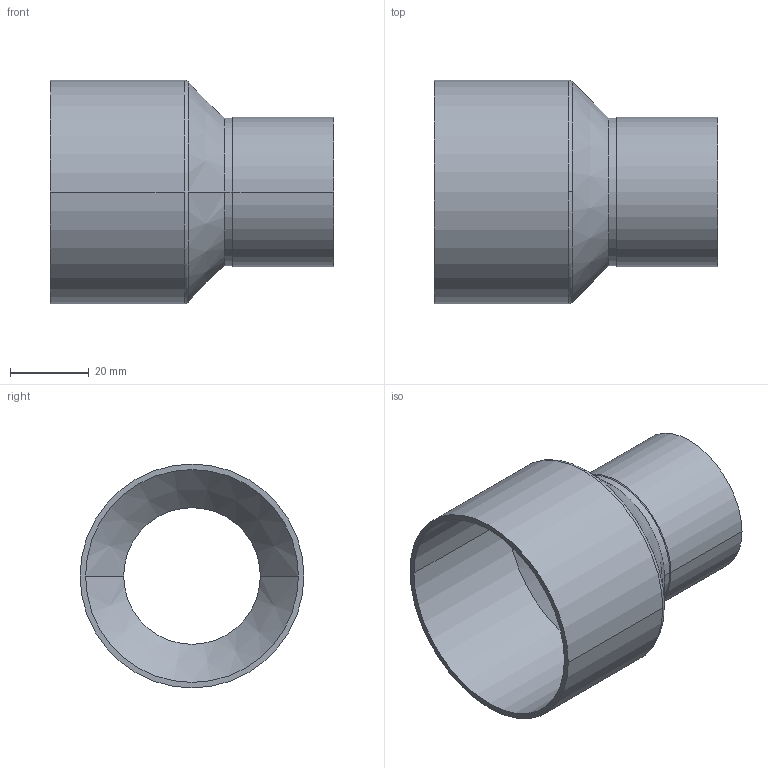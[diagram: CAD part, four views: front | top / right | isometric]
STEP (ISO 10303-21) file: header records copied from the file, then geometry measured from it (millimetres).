
FILE_DESCRIPTION((''),'2;1');
FILE_NAME('G:\Technics\CAD\Bauteile\Serie 15240\152405435.stp','2005-10-21T12:51:16',('boden'),(''),'Autodesk Inventor 8','Autodesk Inventor 8','');
FILE_SCHEMA(('AUTOMOTIVE_DESIGN { 1 0 10303 214 1 1 1 1 }'));
Length unit declared in the file: millimetre
Products named in the file (1): 152405435
Bounding box: 72 x 56.95 x 56.95 mm (x, y, z)
Volume: 15648 mm3; surface area: 22759.1 mm2
Topology: 1 solids, 1 shells, 24 faces, 52 edges, 30 vertices
Faces by surface type: cylinder 12, cone 8, torus 2, plane 2
Entity records: 683 total; most frequent: DIRECTION 134, CARTESIAN_POINT 107, ORIENTED_EDGE 104, AXIS2_PLACEMENT_3D 57, EDGE_CURVE 52, CIRCLE 32, VERTEX_POINT 30, EDGE_LOOP 26
